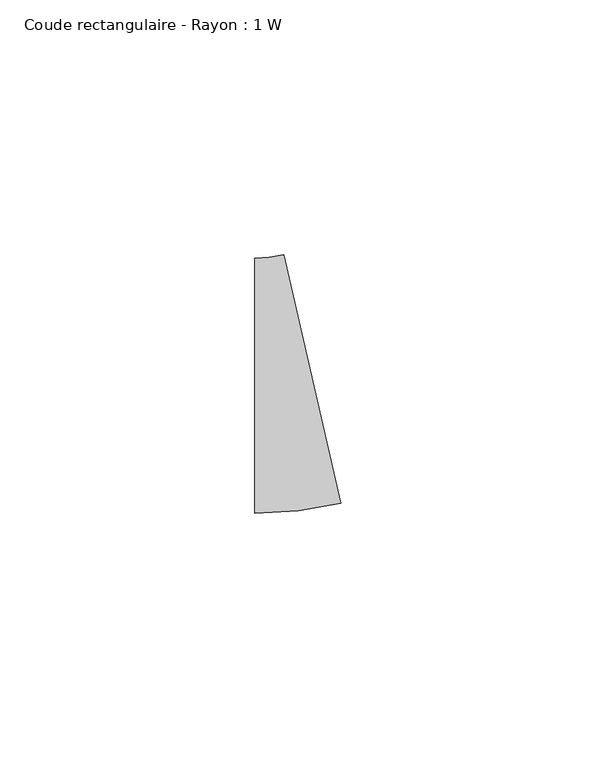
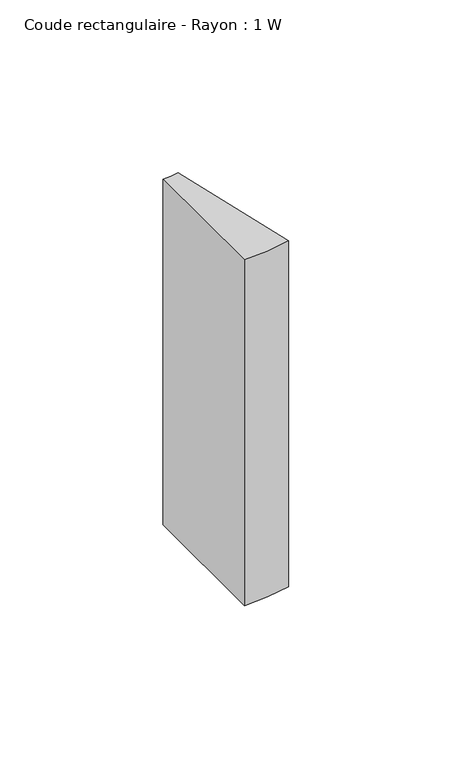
"""IFC4 building model written with IfcOpenShell, lengths in millimetres: duct fitting geometry, Coude rectangulaire - Rayon : 1 W."""

from ifc_helpers import new_model, si_unit, point, frame, frame_2d, origin, place, context, project, spatial, polyline, circle_curve, trimmed, segment, composite_curve, outline, extrude, source, transform, mapped, element, save


def coude_rectangulaire_rayon_1_w_07da5d97(model_context):
    return source(origin(), model_context, "Body", "SweptSolid", [
        extrude(outline(composite_curve([segment(trimmed(circle_curve(frame_2d((-5.6967804, 50.0)), 75.0), [point((11.1745487, -23.0777549))], [point((-5.6967804, -25.0))], False, "CARTESIAN"), True, "CONTINUOUS"), segment(polyline([(-5.6967804, -25.0), (-5.6967804, 25.0)]), True, "CONTINUOUS"), segment(trimmed(circle_curve(frame_2d((-5.6967804, 50.0)), 25.0), [point((-5.6967804, 25.0))], [point((-0.0730041, 25.6407484))], True, "CARTESIAN"), True, "CONTINUOUS"), segment(polyline([(-0.0730041, 25.6407484), (11.1745487, -23.0777549)]), True, "CONTINUOUS")], self_intersect=False)), frame((0.0, 0.0, -65.0), z_axis=(0.0, 0.0, 1.0), x_axis=(1.0, 0.0, 0.0)), (0.0, 0.0, 1.0), 130.0),
    ])


if __name__ == "__main__":
    model = new_model("IFC4")
    model_context = context("Model", 3, world=origin())
    ifc_project = project(units=[si_unit("LENGTHUNIT", "METRE", prefix="MILLI")], contexts=[model_context])
    site = spatial("IfcSite", under=ifc_project)
    building = spatial("IfcBuilding", under=site)
    placement = place(None, origin())
    coude_rectangulaire_rayon_1_w_shape = coude_rectangulaire_rayon_1_w_07da5d97(model_context)
    element("IfcDuctFitting", 1, ObjectType="Coude rectangulaire - Rayon : 1 W", at=placement, inside=building, context=model_context, shape_type="MappedRepresentation", body=[
        mapped(coude_rectangulaire_rayon_1_w_shape, transform((0.0, 0.0, 0.0), x_axis=(1.0, 0.0, 0.0), y_axis=(0.0, 1.0, 0.0), z_axis=(0.0, 0.0, 1.0))),
    ])
    save(model, "model.ifc")
